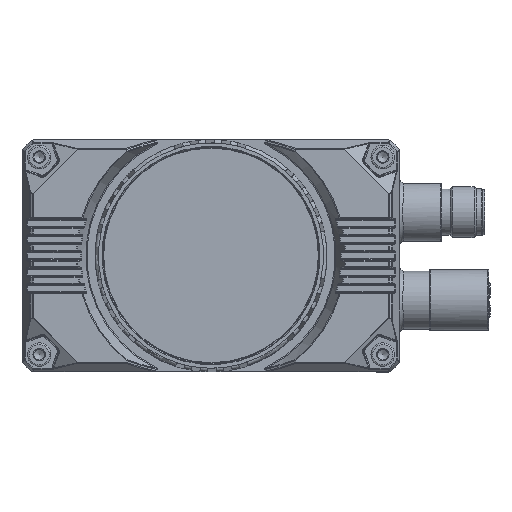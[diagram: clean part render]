
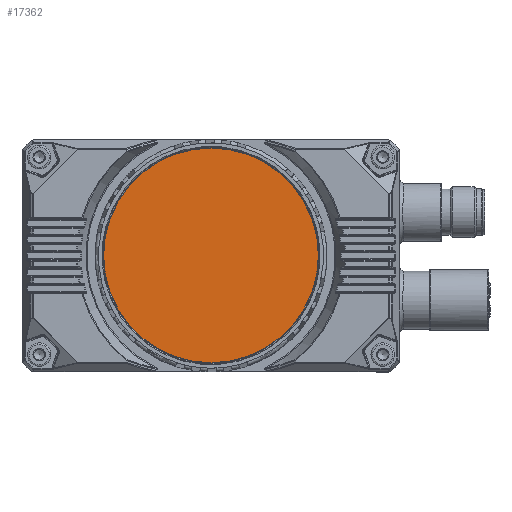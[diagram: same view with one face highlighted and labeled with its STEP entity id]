
A CAD part, top view. The second image highlights one B-rep face of the part: STEP entity #17362.
In plain terms, the highlighted planar face has unit normal (0, 0, 1).
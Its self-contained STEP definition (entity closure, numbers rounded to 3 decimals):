
#12051=CIRCLE('',#63426,25.);
#17362=ADVANCED_FACE('',(#21654),#18666,.T.);
#18666=PLANE('',#63427);
#21654=FACE_OUTER_BOUND('',#25145,.T.);
#25145=EDGE_LOOP('',(#40215));
#40215=ORIENTED_EDGE('',*,*,#51878,.T.);
#44639=VERTEX_POINT('',#121348);
#51878=EDGE_CURVE('',#44639,#44639,#12051,.T.);
#63426=AXIS2_PLACEMENT_3D('',#121347,#77239,#77240);
#63427=AXIS2_PLACEMENT_3D('',#121349,#77241,#77242);
#77239=DIRECTION('',(0.,0.,1.));
#77240=DIRECTION('',(1.,0.,0.));
#77241=DIRECTION('',(0.,0.,1.));
#77242=DIRECTION('',(-1.,0.,0.));
#121347=CARTESIAN_POINT('',(0.,0.,110.8));
#121348=CARTESIAN_POINT('',(25.,0.,110.8));
#121349=CARTESIAN_POINT('',(0.,0.,110.8));
